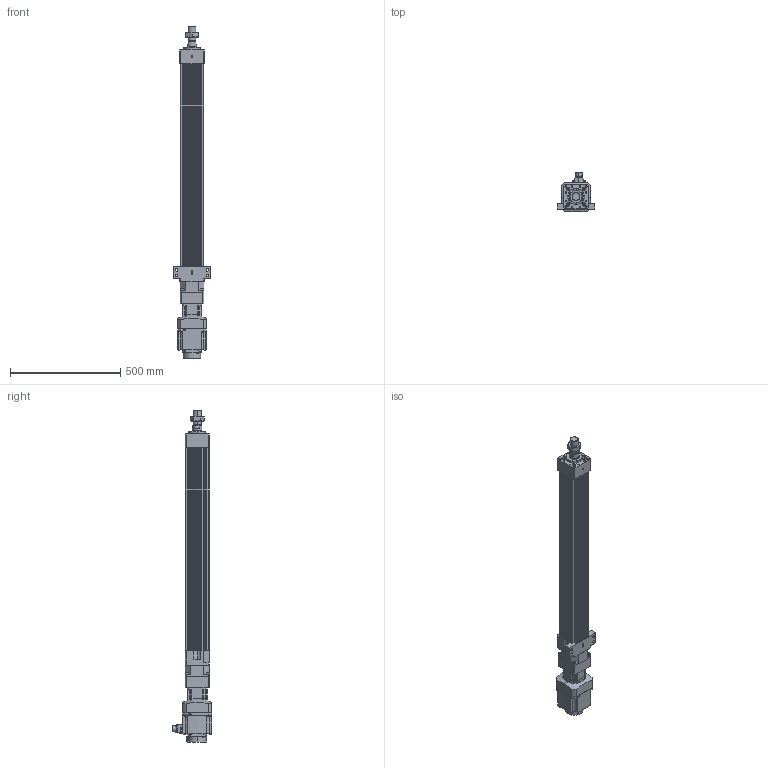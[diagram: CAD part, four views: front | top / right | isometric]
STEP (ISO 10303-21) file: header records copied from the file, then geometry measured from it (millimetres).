
FILE_DESCRIPTION (( 'STEP AP203' ), '1' );
FILE_NAME ('HES110NS(HS)-S750-W010G00-M-FFC.STEP', '2023-01-27T06:57:50', ( 'tms' ), ( '' ), 'SwSTEP 2.0', 'SolidWorks 2013', '' );
FILE_SCHEMA (( 'CONFIG_CONTROL_DESIGN' ));
Length unit declared in the file: millimetre
Products named in the file (8): HES110NS(HS)-S750-W010G00-M-FFC; M36X1.5P; HG-SR102; P0401301004; AB090-003[HG-SR102B]; AB0901; HES110 ROD M ST750; HES110-S750-G090-FFC
Assembly tree (7 placements, depth 3):
  HES110NS(HS)-S750-W010G00-M-FFC
    HES110-S750-G090-FFC
    HES110 ROD M ST750
    M36X1.5P
    AB090-003[HG-SR102B]
      AB0901
      P0401301004
    HG-SR102
Bounding box: 170 x 177.49 x 1508.5 mm (x, y, z)
Volume: 9664052.3 mm3; surface area: 1370766.6 mm2
Topology: 4 solids, 15 shells, 1217 faces, 3075 edges, 1984 vertices
Faces by surface type: plane 556, cylinder 547, cone 102, bspline 8, torus 4
Entity records: 38420 total; most frequent: CARTESIAN_POINT 7442, DIRECTION 6626, ORIENTED_EDGE 6054, EDGE_CURVE 3037, AXIS2_PLACEMENT_3D 2439, VERTEX_POINT 1984, LINE 1748, VECTOR 1748
